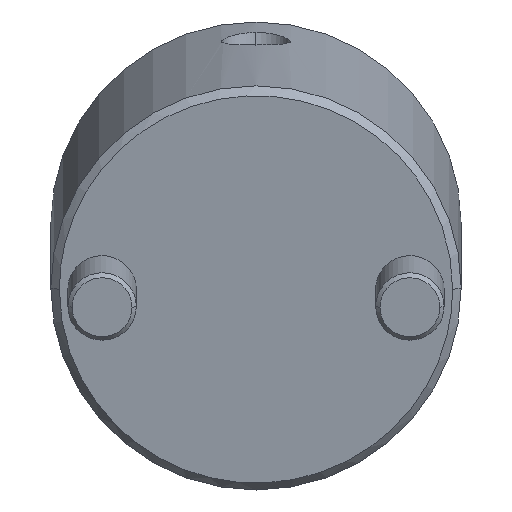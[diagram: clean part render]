
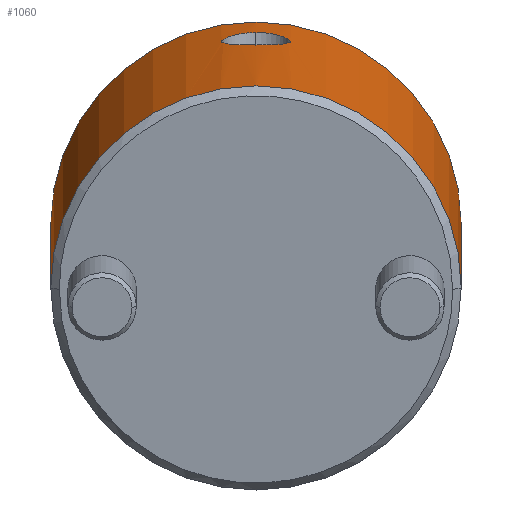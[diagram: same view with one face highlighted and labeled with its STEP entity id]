
A CAD part, front view. The second image highlights one B-rep face of the part: STEP entity #1060.
In plain terms, the highlighted cylindrical face has radius 24 mm (diameter 48 mm), a partial arc.
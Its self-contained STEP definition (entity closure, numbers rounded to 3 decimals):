
#802=CARTESIAN_POINT('Vertex',(0.,24.,1.)) ;
#805=CARTESIAN_POINT('Axis2P3D Location',(0.,0.,1.)) ;
#809=CARTESIAN_POINT('Vertex',(0.,-24.,1.)) ;
#961=CARTESIAN_POINT('Axis2P3D Location',(0.,0.,-2.25)) ;
#966=CARTESIAN_POINT('Line Origine',(0.,24.,-2.25)) ;
#970=CARTESIAN_POINT('Vertex',(0.,24.,44.)) ;
#973=CARTESIAN_POINT('Axis2P3D Location',(0.,0.,44.)) ;
#977=CARTESIAN_POINT('Vertex',(0.,-24.,44.)) ;
#980=CARTESIAN_POINT('Line Origine',(0.,-24.,-2.25)) ;
#992=CARTESIAN_POINT('Control Point',(24.,0.,36.913)) ;
#993=CARTESIAN_POINT('Control Point',(24.,0.582,36.913)) ;
#994=CARTESIAN_POINT('Control Point',(23.982,1.153,36.804)) ;
#995=CARTESIAN_POINT('Control Point',(23.948,1.703,36.586)) ;
#996=CARTESIAN_POINT('Control Point',(23.888,2.367,36.172)) ;
#997=CARTESIAN_POINT('Control Point',(23.823,2.916,35.611)) ;
#998=CARTESIAN_POINT('Control Point',(23.806,3.048,35.458)) ;
#999=CARTESIAN_POINT('Control Point',(23.774,3.292,35.141)) ;
#1000=CARTESIAN_POINT('Control Point',(23.744,3.495,34.796)) ;
#1001=CARTESIAN_POINT('Control Point',(23.731,3.587,34.619)) ;
#1002=CARTESIAN_POINT('Control Point',(23.706,3.747,34.254)) ;
#1003=CARTESIAN_POINT('Control Point',(23.687,3.864,33.874)) ;
#1004=CARTESIAN_POINT('Control Point',(23.679,3.911,33.681)) ;
#1005=CARTESIAN_POINT('Control Point',(23.667,3.981,33.292)) ;
#1006=CARTESIAN_POINT('Control Point',(23.663,4.006,32.895)) ;
#1007=CARTESIAN_POINT('Control Point',(23.663,4.006,32.7)) ;
#1008=CARTESIAN_POINT('Control Point',(23.667,3.983,32.307)) ;
#1009=CARTESIAN_POINT('Control Point',(23.679,3.914,31.922)) ;
#1010=CARTESIAN_POINT('Control Point',(23.686,3.868,31.732)) ;
#1011=CARTESIAN_POINT('Control Point',(23.714,3.695,31.172)) ;
#1012=CARTESIAN_POINT('Control Point',(23.756,3.424,30.653)) ;
#1013=CARTESIAN_POINT('Control Point',(23.788,3.201,30.33)) ;
#1014=CARTESIAN_POINT('Control Point',(23.846,2.744,29.818)) ;
#1015=CARTESIAN_POINT('Control Point',(23.902,2.191,29.416)) ;
#1016=CARTESIAN_POINT('Control Point',(23.924,1.937,29.266)) ;
#1017=CARTESIAN_POINT('Control Point',(23.962,1.414,29.017)) ;
#1018=CARTESIAN_POINT('Control Point',(23.987,0.853,28.865)) ;
#1019=CARTESIAN_POINT('Control Point',(23.996,0.57,28.814)) ;
#1020=CARTESIAN_POINT('Control Point',(24.,0.286,28.79)) ;
#1021=CARTESIAN_POINT('Control Point',(24.,0.,28.79)) ;
#1022=CARTESIAN_POINT('Vertex',(24.,0.,36.913)) ;
#1024=CARTESIAN_POINT('Vertex',(24.,0.,28.79)) ;
#1028=CARTESIAN_POINT('Control Point',(24.,0.,28.79)) ;
#1029=CARTESIAN_POINT('Control Point',(24.,-0.392,28.79)) ;
#1030=CARTESIAN_POINT('Control Point',(23.992,-0.781,28.836)) ;
#1031=CARTESIAN_POINT('Control Point',(23.976,-1.167,28.931)) ;
#1032=CARTESIAN_POINT('Control Point',(23.931,-1.903,29.211)) ;
#1033=CARTESIAN_POINT('Control Point',(23.867,-2.548,29.659)) ;
#1034=CARTESIAN_POINT('Control Point',(23.834,-2.841,29.921)) ;
#1035=CARTESIAN_POINT('Control Point',(23.775,-3.291,30.438)) ;
#1036=CARTESIAN_POINT('Control Point',(23.726,-3.619,31.036)) ;
#1037=CARTESIAN_POINT('Control Point',(23.708,-3.736,31.304)) ;
#1038=CARTESIAN_POINT('Control Point',(23.683,-3.889,31.767)) ;
#1039=CARTESIAN_POINT('Control Point',(23.669,-3.971,32.251)) ;
#1040=CARTESIAN_POINT('Control Point',(23.666,-3.993,32.447)) ;
#1041=CARTESIAN_POINT('Control Point',(23.661,-4.021,33.042)) ;
#1042=CARTESIAN_POINT('Control Point',(23.674,-3.942,33.637)) ;
#1043=CARTESIAN_POINT('Control Point',(23.691,-3.843,34.022)) ;
#1044=CARTESIAN_POINT('Control Point',(23.725,-3.628,34.581)) ;
#1045=CARTESIAN_POINT('Control Point',(23.77,-3.317,35.093)) ;
#1046=CARTESIAN_POINT('Control Point',(23.786,-3.205,35.256)) ;
#1047=CARTESIAN_POINT('Control Point',(23.818,-2.958,35.571)) ;
#1048=CARTESIAN_POINT('Control Point',(23.851,-2.678,35.852)) ;
#1049=CARTESIAN_POINT('Control Point',(23.867,-2.531,35.982)) ;
#1050=CARTESIAN_POINT('Control Point',(23.921,-2.003,36.397)) ;
#1051=CARTESIAN_POINT('Control Point',(23.965,-1.4,36.694)) ;
#1052=CARTESIAN_POINT('Control Point',(23.988,-0.944,36.84)) ;
#1053=CARTESIAN_POINT('Control Point',(24.,-0.476,36.913)) ;
#1054=CARTESIAN_POINT('Control Point',(24.,0.,36.913)) ;
#806=DIRECTION('Axis2P3D Direction',(0.,0.,1.)) ;
#962=DIRECTION('Axis2P3D Direction',(0.,-0.,1.)) ;
#963=DIRECTION('Axis2P3D XDirection',(0.,-1.,0.)) ;
#967=DIRECTION('Vector Direction',(0.,0.,1.)) ;
#974=DIRECTION('Axis2P3D Direction',(0.,-0.,1.)) ;
#981=DIRECTION('Vector Direction',(0.,0.,1.)) ;
#807=AXIS2_PLACEMENT_3D('Circle Axis2P3D',#805,#806,$) ;
#964=AXIS2_PLACEMENT_3D('Cylinder Axis2P3D',#961,#962,#963) ;
#975=AXIS2_PLACEMENT_3D('Circle Axis2P3D',#973,#974,$) ;
#986=ORIENTED_EDGE('',*,*,#972,.F.) ;
#987=ORIENTED_EDGE('',*,*,#979,.T.) ;
#988=ORIENTED_EDGE('',*,*,#984,.T.) ;
#989=ORIENTED_EDGE('',*,*,#811,.F.) ;
#1057=ORIENTED_EDGE('',*,*,#1026,.T.) ;
#1058=ORIENTED_EDGE('',*,*,#1055,.T.) ;
#1059=FACE_BOUND('',#1056,.T.) ;
#968=VECTOR('Line Direction',#967,1.) ;
#982=VECTOR('Line Direction',#981,1.) ;
#1060=ADVANCED_FACE('MANIFOLD_SOLID_BREP #1134',(#990,#1059),#965,.T.) ;
#991=B_SPLINE_CURVE_WITH_KNOTS('',5,(#992,#993,#994,#995,#996,#997,#998,#999,#1000,#1001,#1002,#1003,#1004,#1005,#1006,#1007,#1008,#1009,#1010,#1011,#1012,#1013,#1014,#1015,#1016,#1017,#1018,#1019,#1020,#1021),.UNSPECIFIED.,.F.,.U.,(6,3,3,3,3,3,3,3,3,6),(0.,4.132,5.523,6.921,8.312,9.683,11.058,13.836,15.922,17.949),.UNSPECIFIED.) ;
#1027=B_SPLINE_CURVE_WITH_KNOTS('',5,(#1028,#1029,#1030,#1031,#1032,#1033,#1034,#1035,#1036,#1037,#1038,#1039,#1040,#1041,#1042,#1043,#1044,#1045,#1046,#1047,#1048,#1049,#1050,#1051,#1052,#1053,#1054),.UNSPECIFIED.,.F.,.U.,(6,3,3,3,3,3,3,3,6),(0.,2.782,5.564,7.639,9.01,11.786,13.181,14.576,17.952),.UNSPECIFIED.) ;
#808=CIRCLE('generated circle',#807,24.) ;
#976=CIRCLE('generated circle',#975,24.) ;
#965=CYLINDRICAL_SURFACE('generated cylinder',#964,24.) ;
#811=EDGE_CURVE('',#803,#810,#808,.F.) ;
#972=EDGE_CURVE('',#971,#803,#969,.F.) ;
#979=EDGE_CURVE('',#971,#978,#976,.F.) ;
#984=EDGE_CURVE('',#978,#810,#983,.F.) ;
#1026=EDGE_CURVE('',#1023,#1025,#991,.T.) ;
#1055=EDGE_CURVE('',#1025,#1023,#1027,.T.) ;
#985=EDGE_LOOP('',(#986,#987,#988,#989)) ;
#1056=EDGE_LOOP('',(#1057,#1058)) ;
#990=FACE_OUTER_BOUND('',#985,.T.) ;
#969=LINE('Line',#966,#968) ;
#983=LINE('Line',#980,#982) ;
#803=VERTEX_POINT('',#802) ;
#810=VERTEX_POINT('',#809) ;
#971=VERTEX_POINT('',#970) ;
#978=VERTEX_POINT('',#977) ;
#1023=VERTEX_POINT('',#1022) ;
#1025=VERTEX_POINT('',#1024) ;
